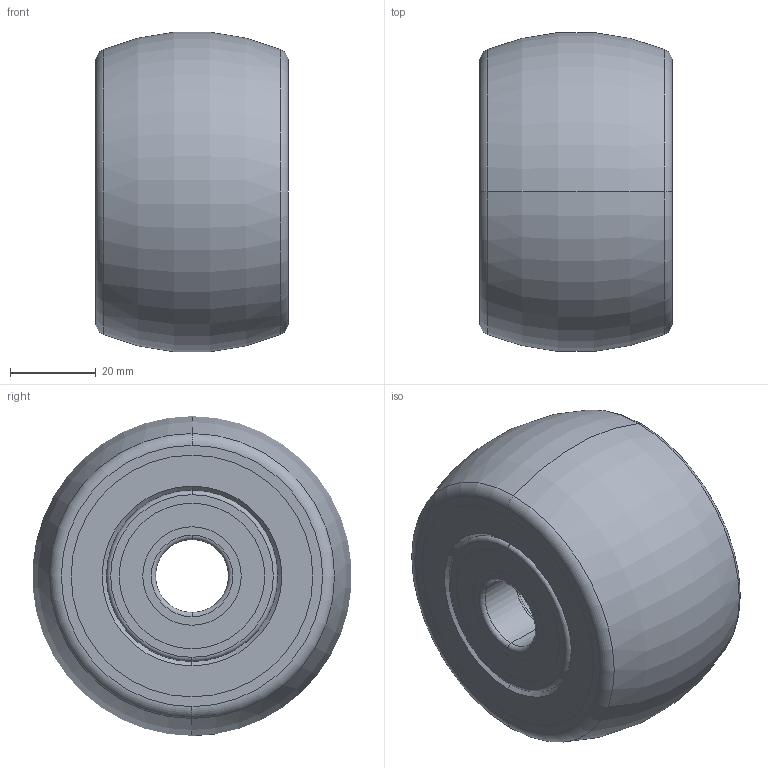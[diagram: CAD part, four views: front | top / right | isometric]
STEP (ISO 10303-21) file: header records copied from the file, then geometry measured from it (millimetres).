
FILE_DESCRIPTION (( 'STEP AP214' ), '1' );
FILE_NAME ('12035303186371.STEP', '2026-06-09T07:21:27', ( 'chenjinwen' ), ( '' ), 'SwSTEP 2.0', 'SolidWorks 2026', '' );
FILE_SCHEMA (( 'AUTOMOTIVE_DESIGN' ));
Length unit declared in the file: millimetre
Products named in the file (1): 12035303186371
Bounding box: 45 x 74.45 x 74.66 mm (x, y, z)
Volume: 154646.2 mm3; surface area: 21951.3 mm2
Topology: 1 solids, 1 shells, 42 faces, 84 edges, 54 vertices
Faces by surface type: torus 18, plane 12, cone 8, cylinder 4
Entity records: 1159 total; most frequent: DIRECTION 242, CARTESIAN_POINT 181, ORIENTED_EDGE 168, AXIS2_PLACEMENT_3D 115, EDGE_CURVE 84, CIRCLE 72, EDGE_LOOP 54, VERTEX_POINT 54
